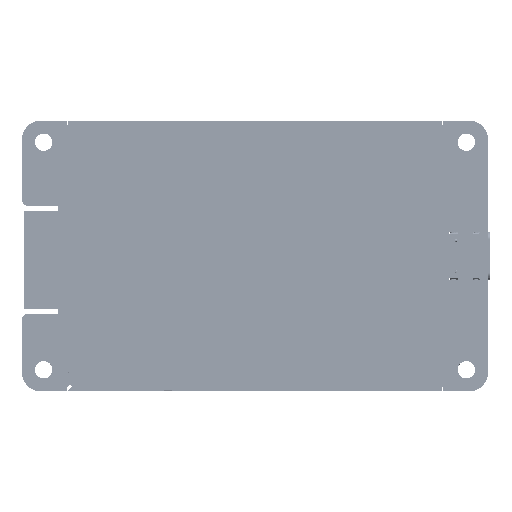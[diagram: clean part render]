
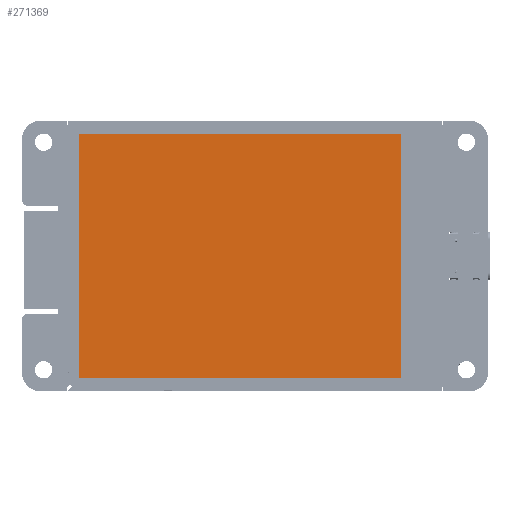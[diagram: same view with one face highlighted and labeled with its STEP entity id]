
A CAD part, top view. The second image highlights one B-rep face of the part: STEP entity #271369.
In plain terms, the highlighted planar face has unit normal (0, 0, 1).
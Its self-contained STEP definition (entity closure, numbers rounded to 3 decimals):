
#271240 = VERTEX_POINT('',#271241);
#271241 = CARTESIAN_POINT('',(-29.725,-22.6,1.2));
#271247 = EDGE_CURVE('',#271240,#271248,#271250,.T.);
#271248 = VERTEX_POINT('',#271249);
#271249 = CARTESIAN_POINT('',(-29.725,22.6,1.2));
#271250 = LINE('',#271251,#271252);
#271251 = CARTESIAN_POINT('',(-29.725,-22.6,1.2));
#271252 = VECTOR('',#271253,1.);
#271253 = DIRECTION('',(0.,1.,0.));
#271278 = EDGE_CURVE('',#271248,#271279,#271281,.T.);
#271279 = VERTEX_POINT('',#271280);
#271280 = CARTESIAN_POINT('',(29.725,22.6,1.2));
#271281 = LINE('',#271282,#271283);
#271282 = CARTESIAN_POINT('',(-29.725,22.6,1.2));
#271283 = VECTOR('',#271284,1.);
#271284 = DIRECTION('',(1.,0.,0.));
#271309 = EDGE_CURVE('',#271279,#271310,#271312,.T.);
#271310 = VERTEX_POINT('',#271311);
#271311 = CARTESIAN_POINT('',(29.725,-22.6,1.2));
#271312 = LINE('',#271313,#271314);
#271313 = CARTESIAN_POINT('',(29.725,22.6,1.2));
#271314 = VECTOR('',#271315,1.);
#271315 = DIRECTION('',(0.,-1.,0.));
#271340 = EDGE_CURVE('',#271310,#271240,#271341,.T.);
#271341 = LINE('',#271342,#271343);
#271342 = CARTESIAN_POINT('',(29.725,-22.6,1.2));
#271343 = VECTOR('',#271344,1.);
#271344 = DIRECTION('',(-1.,0.,0.));
#271369 = ADVANCED_FACE('',(#271370),#271376,.T.);
#271370 = FACE_BOUND('',#271371,.F.);
#271371 = EDGE_LOOP('',(#271372,#271373,#271374,#271375));
#271372 = ORIENTED_EDGE('',*,*,#271247,.T.);
#271373 = ORIENTED_EDGE('',*,*,#271278,.T.);
#271374 = ORIENTED_EDGE('',*,*,#271309,.T.);
#271375 = ORIENTED_EDGE('',*,*,#271340,.T.);
#271376 = PLANE('',#271377);
#271377 = AXIS2_PLACEMENT_3D('',#271378,#271379,#271380);
#271378 = CARTESIAN_POINT('',(-29.725,-22.6,1.2));
#271379 = DIRECTION('',(0.,0.,1.));
#271380 = DIRECTION('',(1.,0.,0.));
